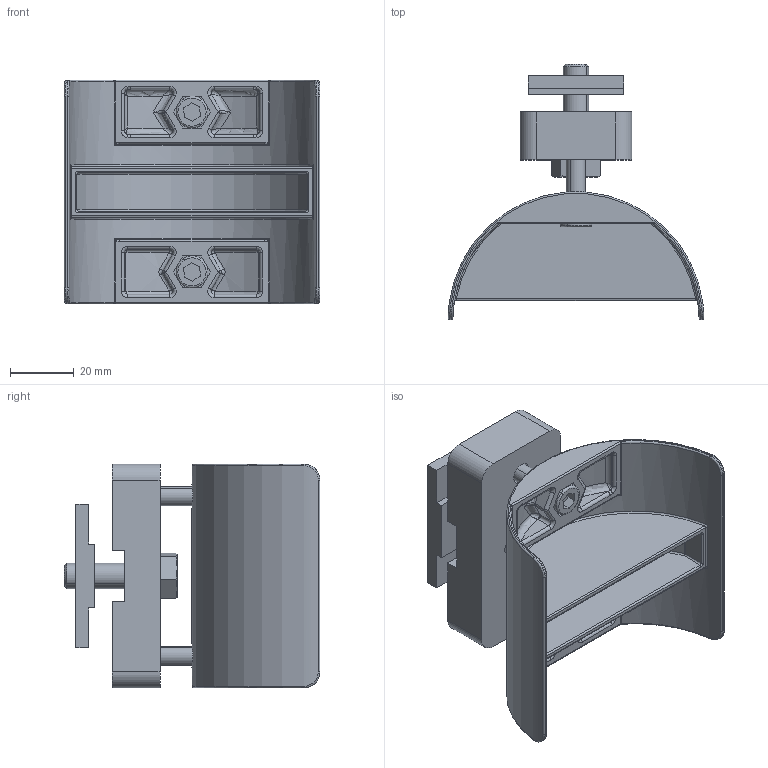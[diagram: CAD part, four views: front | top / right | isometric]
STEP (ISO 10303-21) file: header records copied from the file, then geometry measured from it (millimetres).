
FILE_DESCRIPTION (( 'STEP AP214' ), '1' );
FILE_NAME ('900.200.302.STEP', '2015-02-23T15:51:31', ( '' ), ( '' ), 'SwSTEP 2.0', 'SolidWorks 2012', '' );
FILE_SCHEMA (( 'AUTOMOTIVE_DESIGN' ));
Length unit declared in the file: millimetre
Products named in the file (6): VITI TCEI UNI 5931_M6x30 UNI 5931; 900.200.016; 800.019.122-1; VITI TE UNI 5739_M8x30 UNI 5739; 900.200.011; 900.200.302
Assembly tree (6 placements, depth 2):
  900.200.302
    900.200.011
    800.019.122-1
    VITI TE UNI 5739_M8x30 UNI 5739
    VITI TCEI UNI 5931_M6x30 UNI 5931  x2
    900.200.016
Bounding box: 79.99 x 80 x 70 mm (x, y, z)
Volume: 70270.3 mm3; surface area: 42648.4 mm2
Topology: 6 solids, 6 shells, 338 faces, 777 edges, 442 vertices
Faces by surface type: cylinder 108, plane 98, bspline 60, torus 44, sphere 16, cone 12
Entity records: 11793 total; most frequent: CARTESIAN_POINT 4714, ORIENTED_EDGE 1422, DIRECTION 1403, EDGE_CURVE 711, AXIS2_PLACEMENT_3D 559, VERTEX_POINT 412, EDGE_LOOP 343, ADVANCED_FACE 320
